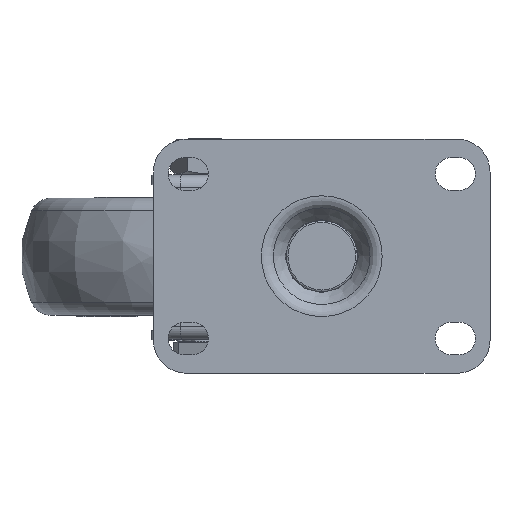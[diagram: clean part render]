
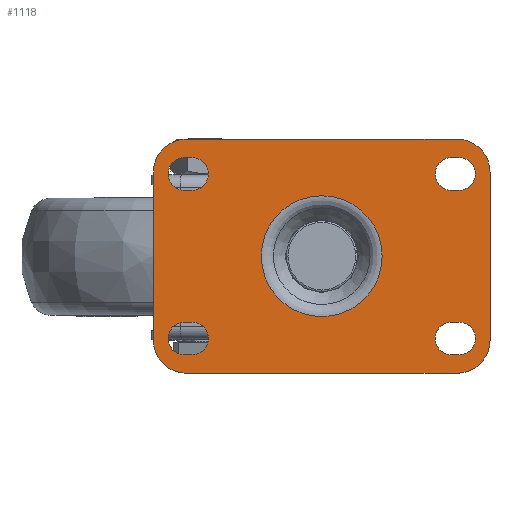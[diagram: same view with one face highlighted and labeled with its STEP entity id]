
A CAD part, top view. The second image highlights one B-rep face of the part: STEP entity #1118.
In plain terms, the highlighted planar face has unit normal (0, 0, 1).
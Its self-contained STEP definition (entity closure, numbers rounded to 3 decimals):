
#1118=ADVANCED_FACE('',(#5166,#5167,#5168,#5169,#5170,#5171),#1943,.F.);
#1943=PLANE('',#14610);
#3046=LINE('',#19965,#4097);
#3047=LINE('',#19970,#4098);
#3048=LINE('',#19973,#4099);
#3049=LINE('',#19978,#4100);
#3050=LINE('',#19981,#4101);
#3051=LINE('',#19986,#4102);
#3052=LINE('',#19989,#4103);
#3053=LINE('',#19994,#4104);
#3054=LINE('',#19997,#4105);
#3055=LINE('',#20000,#4106);
#3056=LINE('',#20004,#4107);
#3057=LINE('',#20008,#4108);
#3058=LINE('',#20010,#4109);
#3059=LINE('',#20014,#4110);
#4097=VECTOR('',#15914,1.);
#4098=VECTOR('',#15917,1.);
#4099=VECTOR('',#15920,1.);
#4100=VECTOR('',#15923,1.);
#4101=VECTOR('',#15926,1.);
#4102=VECTOR('',#15929,1.);
#4103=VECTOR('',#15932,1.);
#4104=VECTOR('',#15935,1.);
#4105=VECTOR('',#15938,1.);
#4106=VECTOR('',#15939,1.);
#4107=VECTOR('',#15942,1.);
#4108=VECTOR('',#15945,1.);
#4109=VECTOR('',#15946,1.);
#4110=VECTOR('',#15949,1.);
#5166=FACE_BOUND('',#5453,.T.);
#5167=FACE_BOUND('',#5454,.T.);
#5168=FACE_BOUND('',#5455,.T.);
#5169=FACE_BOUND('',#5456,.T.);
#5170=FACE_BOUND('',#5457,.T.);
#5171=FACE_BOUND('',#5458,.T.);
#5453=EDGE_LOOP('',(#6615));
#5454=EDGE_LOOP('',(#6616,#6617,#6618,#6619));
#5455=EDGE_LOOP('',(#6620,#6621,#6622,#6623));
#5456=EDGE_LOOP('',(#6624,#6625,#6626,#6627));
#5457=EDGE_LOOP('',(#6628,#6629,#6630,#6631));
#5458=EDGE_LOOP('',(#6632,#6633,#6634,#6635,#6636,#6637,#6638,#6639,#6640,
#6641));
#6615=ORIENTED_EDGE('',*,*,#12198,.T.);
#6616=ORIENTED_EDGE('',*,*,#12199,.F.);
#6617=ORIENTED_EDGE('',*,*,#12200,.F.);
#6618=ORIENTED_EDGE('',*,*,#12201,.F.);
#6619=ORIENTED_EDGE('',*,*,#12202,.F.);
#6620=ORIENTED_EDGE('',*,*,#12203,.F.);
#6621=ORIENTED_EDGE('',*,*,#12204,.F.);
#6622=ORIENTED_EDGE('',*,*,#12205,.F.);
#6623=ORIENTED_EDGE('',*,*,#12206,.F.);
#6624=ORIENTED_EDGE('',*,*,#12207,.F.);
#6625=ORIENTED_EDGE('',*,*,#12208,.F.);
#6626=ORIENTED_EDGE('',*,*,#12209,.F.);
#6627=ORIENTED_EDGE('',*,*,#12210,.F.);
#6628=ORIENTED_EDGE('',*,*,#12211,.F.);
#6629=ORIENTED_EDGE('',*,*,#12212,.F.);
#6630=ORIENTED_EDGE('',*,*,#12213,.F.);
#6631=ORIENTED_EDGE('',*,*,#12214,.F.);
#6632=ORIENTED_EDGE('',*,*,#12215,.T.);
#6633=ORIENTED_EDGE('',*,*,#12216,.T.);
#6634=ORIENTED_EDGE('',*,*,#12217,.T.);
#6635=ORIENTED_EDGE('',*,*,#12218,.T.);
#6636=ORIENTED_EDGE('',*,*,#12219,.T.);
#6637=ORIENTED_EDGE('',*,*,#12220,.T.);
#6638=ORIENTED_EDGE('',*,*,#12221,.T.);
#6639=ORIENTED_EDGE('',*,*,#12222,.T.);
#6640=ORIENTED_EDGE('',*,*,#12223,.T.);
#6641=ORIENTED_EDGE('',*,*,#12224,.T.);
#10779=VERTEX_POINT('',#19964);
#10780=VERTEX_POINT('',#19966);
#10781=VERTEX_POINT('',#19967);
#10782=VERTEX_POINT('',#19969);
#10783=VERTEX_POINT('',#19971);
#10784=VERTEX_POINT('',#19974);
#10785=VERTEX_POINT('',#19975);
#10786=VERTEX_POINT('',#19977);
#10787=VERTEX_POINT('',#19979);
#10788=VERTEX_POINT('',#19982);
#10789=VERTEX_POINT('',#19983);
#10790=VERTEX_POINT('',#19985);
#10791=VERTEX_POINT('',#19987);
#10792=VERTEX_POINT('',#19990);
#10793=VERTEX_POINT('',#19991);
#10794=VERTEX_POINT('',#19993);
#10795=VERTEX_POINT('',#19995);
#10796=VERTEX_POINT('',#19998);
#10797=VERTEX_POINT('',#19999);
#10798=VERTEX_POINT('',#20001);
#10799=VERTEX_POINT('',#20003);
#10800=VERTEX_POINT('',#20005);
#10801=VERTEX_POINT('',#20007);
#10802=VERTEX_POINT('',#20009);
#10803=VERTEX_POINT('',#20011);
#10804=VERTEX_POINT('',#20013);
#10805=VERTEX_POINT('',#20015);
#12198=EDGE_CURVE('',#10779,#10779,#14158,.T.);
#12199=EDGE_CURVE('',#10780,#10781,#3046,.T.);
#12200=EDGE_CURVE('',#10782,#10780,#14159,.T.);
#12201=EDGE_CURVE('',#10783,#10782,#3047,.T.);
#12202=EDGE_CURVE('',#10781,#10783,#14160,.T.);
#12203=EDGE_CURVE('',#10784,#10785,#3048,.T.);
#12204=EDGE_CURVE('',#10786,#10784,#14161,.T.);
#12205=EDGE_CURVE('',#10787,#10786,#3049,.T.);
#12206=EDGE_CURVE('',#10785,#10787,#14162,.T.);
#12207=EDGE_CURVE('',#10788,#10789,#3050,.T.);
#12208=EDGE_CURVE('',#10790,#10788,#14163,.T.);
#12209=EDGE_CURVE('',#10791,#10790,#3051,.T.);
#12210=EDGE_CURVE('',#10789,#10791,#14164,.T.);
#12211=EDGE_CURVE('',#10792,#10793,#3052,.T.);
#12212=EDGE_CURVE('',#10794,#10792,#14165,.T.);
#12213=EDGE_CURVE('',#10795,#10794,#3053,.T.);
#12214=EDGE_CURVE('',#10793,#10795,#14166,.T.);
#12215=EDGE_CURVE('',#10796,#10797,#3054,.T.);
#12216=EDGE_CURVE('',#10797,#10798,#3055,.T.);
#12217=EDGE_CURVE('',#10798,#10799,#14167,.T.);
#12218=EDGE_CURVE('',#10799,#10800,#3056,.T.);
#12219=EDGE_CURVE('',#10800,#10801,#14168,.T.);
#12220=EDGE_CURVE('',#10801,#10802,#3057,.T.);
#12221=EDGE_CURVE('',#10802,#10803,#3058,.T.);
#12222=EDGE_CURVE('',#10803,#10804,#14169,.T.);
#12223=EDGE_CURVE('',#10804,#10805,#3059,.T.);
#12224=EDGE_CURVE('',#10805,#10796,#14170,.T.);
#14158=CIRCLE('',#14597,16.522);
#14159=CIRCLE('',#14598,4.5);
#14160=CIRCLE('',#14599,4.5);
#14161=CIRCLE('',#14600,4.5);
#14162=CIRCLE('',#14601,4.5);
#14163=CIRCLE('',#14602,4.5);
#14164=CIRCLE('',#14603,4.5);
#14165=CIRCLE('',#14604,4.5);
#14166=CIRCLE('',#14605,4.5);
#14167=CIRCLE('',#14606,9.);
#14168=CIRCLE('',#14607,9.);
#14169=CIRCLE('',#14608,9.);
#14170=CIRCLE('',#14609,9.);
#14597=AXIS2_PLACEMENT_3D('',#19963,#15912,#15913);
#14598=AXIS2_PLACEMENT_3D('',#19968,#15915,#15916);
#14599=AXIS2_PLACEMENT_3D('',#19972,#15918,#15919);
#14600=AXIS2_PLACEMENT_3D('',#19976,#15921,#15922);
#14601=AXIS2_PLACEMENT_3D('',#19980,#15924,#15925);
#14602=AXIS2_PLACEMENT_3D('',#19984,#15927,#15928);
#14603=AXIS2_PLACEMENT_3D('',#19988,#15930,#15931);
#14604=AXIS2_PLACEMENT_3D('',#19992,#15933,#15934);
#14605=AXIS2_PLACEMENT_3D('',#19996,#15936,#15937);
#14606=AXIS2_PLACEMENT_3D('',#20002,#15940,#15941);
#14607=AXIS2_PLACEMENT_3D('',#20006,#15943,#15944);
#14608=AXIS2_PLACEMENT_3D('',#20012,#15947,#15948);
#14609=AXIS2_PLACEMENT_3D('',#20016,#15950,#15951);
#14610=AXIS2_PLACEMENT_3D('',#20017,#15952,#15953);
#15912=DIRECTION('',(0.,0.,-1.));
#15913=DIRECTION('',(-1.,0.,0.));
#15914=DIRECTION('',(1.,0.,0.));
#15915=DIRECTION('',(0.,0.,1.));
#15916=DIRECTION('',(1.,0.,0.));
#15917=DIRECTION('',(-1.,0.,0.));
#15918=DIRECTION('',(0.,0.,1.));
#15919=DIRECTION('',(1.,0.,0.));
#15920=DIRECTION('',(1.,0.,0.));
#15921=DIRECTION('',(0.,0.,1.));
#15922=DIRECTION('',(1.,0.,0.));
#15923=DIRECTION('',(-1.,0.,0.));
#15924=DIRECTION('',(0.,0.,1.));
#15925=DIRECTION('',(1.,0.,0.));
#15926=DIRECTION('',(1.,0.,0.));
#15927=DIRECTION('',(0.,0.,1.));
#15928=DIRECTION('',(1.,0.,0.));
#15929=DIRECTION('',(-1.,0.,0.));
#15930=DIRECTION('',(0.,0.,1.));
#15931=DIRECTION('',(1.,0.,0.));
#15932=DIRECTION('',(1.,0.,0.));
#15933=DIRECTION('',(0.,0.,1.));
#15934=DIRECTION('',(1.,0.,0.));
#15935=DIRECTION('',(-1.,0.,0.));
#15936=DIRECTION('',(0.,0.,1.));
#15937=DIRECTION('',(1.,0.,0.));
#15938=DIRECTION('',(-1.,0.,0.));
#15939=DIRECTION('',(-1.,0.,0.));
#15940=DIRECTION('',(0.,0.,1.));
#15941=DIRECTION('',(1.,0.,0.));
#15942=DIRECTION('',(0.,-1.,0.));
#15943=DIRECTION('',(0.,0.,1.));
#15944=DIRECTION('',(1.,0.,0.));
#15945=DIRECTION('',(1.,0.,0.));
#15946=DIRECTION('',(1.,0.,0.));
#15947=DIRECTION('',(0.,0.,1.));
#15948=DIRECTION('',(-1.,0.,0.));
#15949=DIRECTION('',(0.,1.,0.));
#15950=DIRECTION('',(0.,0.,1.));
#15951=DIRECTION('',(-1.,0.,0.));
#15952=DIRECTION('',(0.,0.,-1.));
#15953=DIRECTION('',(1.,0.,0.));
#19963=CARTESIAN_POINT('',(0.,0.,0.));
#19964=CARTESIAN_POINT('',(-16.522,0.,0.));
#19965=CARTESIAN_POINT('',(-37.5,18.,0.));
#19966=CARTESIAN_POINT('',(-37.5,18.,0.));
#19967=CARTESIAN_POINT('',(-35.5,18.,0.));
#19968=CARTESIAN_POINT('',(-37.5,22.5,0.));
#19969=CARTESIAN_POINT('',(-37.5,27.,0.));
#19970=CARTESIAN_POINT('',(-37.5,27.,0.));
#19971=CARTESIAN_POINT('',(-35.5,27.,0.));
#19972=CARTESIAN_POINT('',(-35.5,22.5,0.));
#19973=CARTESIAN_POINT('',(-37.5,-27.,0.));
#19974=CARTESIAN_POINT('',(-37.5,-27.,0.));
#19975=CARTESIAN_POINT('',(-35.5,-27.,0.));
#19976=CARTESIAN_POINT('',(-37.5,-22.5,0.));
#19977=CARTESIAN_POINT('',(-37.5,-18.,0.));
#19978=CARTESIAN_POINT('',(-37.5,-18.,0.));
#19979=CARTESIAN_POINT('',(-35.5,-18.,0.));
#19980=CARTESIAN_POINT('',(-35.5,-22.5,0.));
#19981=CARTESIAN_POINT('',(35.5,-27.,0.));
#19982=CARTESIAN_POINT('',(35.5,-27.,0.));
#19983=CARTESIAN_POINT('',(37.5,-27.,0.));
#19984=CARTESIAN_POINT('',(35.5,-22.5,0.));
#19985=CARTESIAN_POINT('',(35.5,-18.,0.));
#19986=CARTESIAN_POINT('',(35.5,-18.,0.));
#19987=CARTESIAN_POINT('',(37.5,-18.,0.));
#19988=CARTESIAN_POINT('',(37.5,-22.5,0.));
#19989=CARTESIAN_POINT('',(35.5,18.,0.));
#19990=CARTESIAN_POINT('',(35.5,18.,0.));
#19991=CARTESIAN_POINT('',(37.5,18.,0.));
#19992=CARTESIAN_POINT('',(35.5,22.5,0.));
#19993=CARTESIAN_POINT('',(35.5,27.,0.));
#19994=CARTESIAN_POINT('',(35.5,27.,0.));
#19995=CARTESIAN_POINT('',(37.5,27.,0.));
#19996=CARTESIAN_POINT('',(37.5,22.5,0.));
#19997=CARTESIAN_POINT('',(-37.,32.,0.));
#19998=CARTESIAN_POINT('',(37.,32.,0.));
#19999=CARTESIAN_POINT('',(0.,32.,0.));
#20000=CARTESIAN_POINT('',(-37.,32.,0.));
#20001=CARTESIAN_POINT('',(-37.,32.,0.));
#20002=CARTESIAN_POINT('',(-37.,23.,0.));
#20003=CARTESIAN_POINT('',(-46.,23.,0.));
#20004=CARTESIAN_POINT('',(-46.,23.,0.));
#20005=CARTESIAN_POINT('',(-46.,-23.,0.));
#20006=CARTESIAN_POINT('',(-37.,-23.,0.));
#20007=CARTESIAN_POINT('',(-37.,-32.,0.));
#20008=CARTESIAN_POINT('',(-37.,-32.,0.));
#20009=CARTESIAN_POINT('',(0.,-32.,0.));
#20010=CARTESIAN_POINT('',(-37.,-32.,0.));
#20011=CARTESIAN_POINT('',(37.,-32.,0.));
#20012=CARTESIAN_POINT('',(37.,-23.,0.));
#20013=CARTESIAN_POINT('',(46.,-23.,0.));
#20014=CARTESIAN_POINT('',(46.,23.,0.));
#20015=CARTESIAN_POINT('',(46.,23.,0.));
#20016=CARTESIAN_POINT('',(37.,23.,0.));
#20017=CARTESIAN_POINT('',(-32.,0.,0.));
